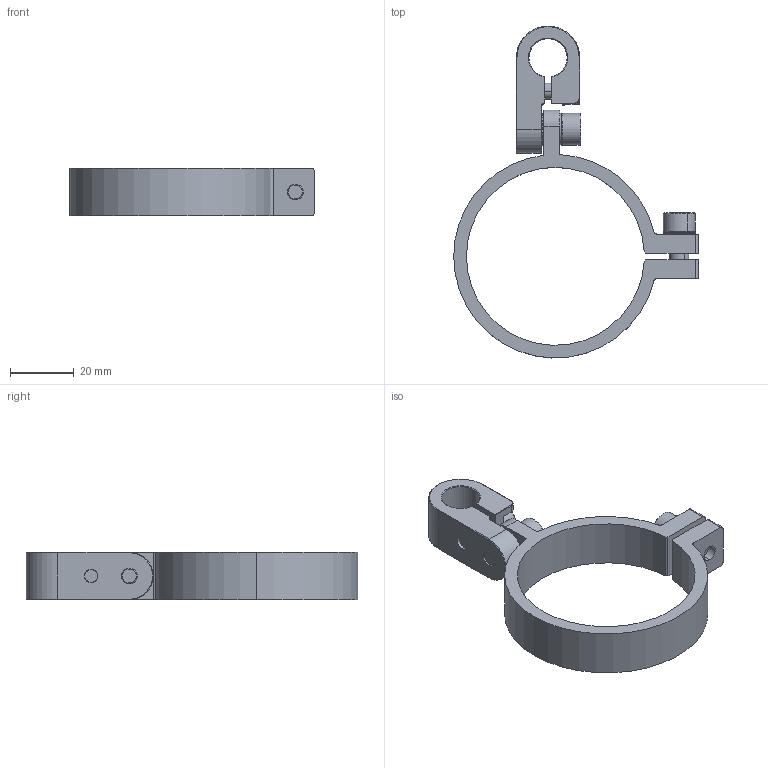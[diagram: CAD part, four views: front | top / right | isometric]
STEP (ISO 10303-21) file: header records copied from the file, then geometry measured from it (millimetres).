
FILE_DESCRIPTION (( 'STEP AP214' ), '1' );
FILE_NAME ('SCE-NR30-D12.STEP', '2021-03-19T01:49:29', ( '微软用户' ), ( '微软中国' ), 'SwSTEP 2.0', 'SolidWorks 2018', '' );
FILE_SCHEMA (( 'AUTOMOTIVE_DESIGN' ));
Length unit declared in the file: millimetre
Products named in the file (8): 2.Y02758; PTS-M6; PTS-M5; PTC-M6L14; PTC-M6L12; PTC-M5L14; 2.Y05466; SCE-NR30-D12
Assembly tree (9 placements, depth 2):
  SCE-NR30-D12
    2.Y05466
    PTC-M5L14
    PTC-M6L12
    PTC-M6L14
    PTS-M5
    PTS-M6  x3
    2.Y02758
Bounding box: 77 x 104.48 x 15 mm (x, y, z)
Volume: 21826.7 mm3; surface area: 14697.9 mm2
Topology: 9 solids, 9 shells, 944 faces, 2698 edges, 1770 vertices
Faces by surface type: plane 848, cylinder 64, cone 26, torus 6
Entity records: 18254 total; most frequent: DIRECTION 3180, CARTESIAN_POINT 3116, ORIENTED_EDGE 3076, EDGE_CURVE 1538, AXIS2_PLACEMENT_3D 1082, VECTOR 1016, LINE 1016, VERTEX_POINT 1002
